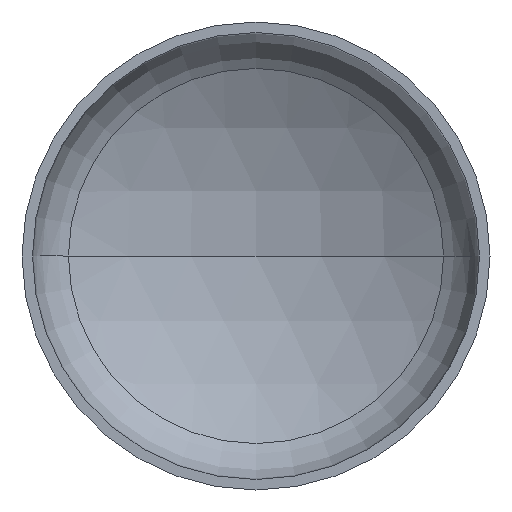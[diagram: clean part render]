
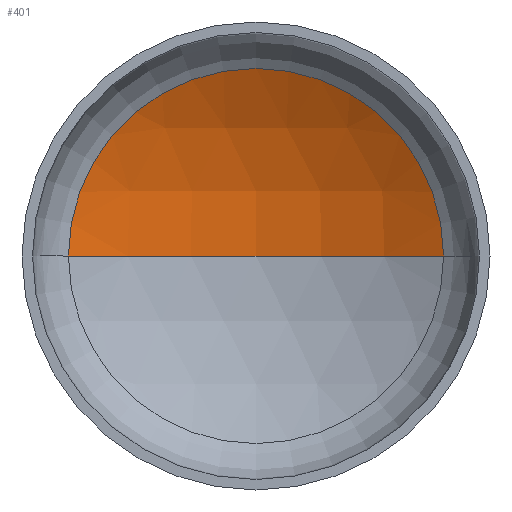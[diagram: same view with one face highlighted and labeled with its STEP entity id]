
A CAD part, front view. The second image highlights one B-rep face of the part: STEP entity #401.
In plain terms, the highlighted spherical face has radius 3200 mm.
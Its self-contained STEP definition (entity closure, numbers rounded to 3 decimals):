
#4 = AXIS2_PLACEMENT_3D ( 'NONE', #310, #224, #85 ) ;
#8 = CARTESIAN_POINT ( 'NONE',  ( 0., 632.262, 0. ) ) ;
#38 = VERTEX_POINT ( 'NONE', #269 ) ;
#48 = AXIS2_PLACEMENT_3D ( 'NONE', #313, #267, #402 ) ;
#52 = AXIS2_PLACEMENT_3D ( 'NONE', #8, #263, #189 ) ;
#85 = DIRECTION ( 'NONE',  ( 1., 0., 0. ) ) ;
#86 = VERTEX_POINT ( 'NONE', #247 ) ;
#109 = EDGE_CURVE ( 'NONE', #86, #110, #212, .T. ) ;
#110 = VERTEX_POINT ( 'NONE', #207 ) ;
#117 = ORIENTED_EDGE ( 'NONE', *, *, #109, .T. ) ;
#123 = EDGE_CURVE ( 'NONE', #38, #86, #272, .T. ) ;
#124 = ORIENTED_EDGE ( 'NONE', *, *, #353, .F. ) ;
#126 = ORIENTED_EDGE ( 'NONE', *, *, #123, .T. ) ;
#168 = EDGE_LOOP ( 'NONE', ( #124, #126, #117 ) ) ;
#189 = DIRECTION ( 'NONE',  ( 1., 0., 0. ) ) ;
#207 = CARTESIAN_POINT ( 'NONE',  ( -1603.095, 632.262, 0. ) ) ;
#212 = CIRCLE ( 'NONE', #52, 1603.095 ) ;
#224 = DIRECTION ( 'NONE',  ( 0., 0., 1. ) ) ;
#233 = AXIS2_PLACEMENT_3D ( 'NONE', #385, #252, #366 ) ;
#247 = CARTESIAN_POINT ( 'NONE',  ( 1603.095, 632.262, 0. ) ) ;
#252 = DIRECTION ( 'NONE',  ( 0., 0., -1. ) ) ;
#263 = DIRECTION ( 'NONE',  ( 0., -1., 0. ) ) ;
#267 = DIRECTION ( 'NONE',  ( 0., 0., -1. ) ) ;
#269 = CARTESIAN_POINT ( 'NONE',  ( 0., 1062.77, 0. ) ) ;
#272 = CIRCLE ( 'NONE', #48, 3200. ) ;
#310 = CARTESIAN_POINT ( 'NONE',  ( 0., -2137.23, 0. ) ) ;
#313 = CARTESIAN_POINT ( 'NONE',  ( 0., -2137.23, 0. ) ) ;
#331 = SPHERICAL_SURFACE ( 'NONE', #233, 3200. ) ;
#345 = FACE_OUTER_BOUND ( 'NONE', #168, .T. ) ;
#353 = EDGE_CURVE ( 'NONE', #38, #110, #359, .T. ) ;
#359 = CIRCLE ( 'NONE', #4, 3200. ) ;
#366 = DIRECTION ( 'NONE',  ( -1., 0., 0. ) ) ;
#385 = CARTESIAN_POINT ( 'NONE',  ( 0., -2137.23, 0. ) ) ;
#401 = ADVANCED_FACE ( 'NONE', ( #345 ), #331, .F. ) ;
#402 = DIRECTION ( 'NONE',  ( -1., 0., 0. ) ) ;
